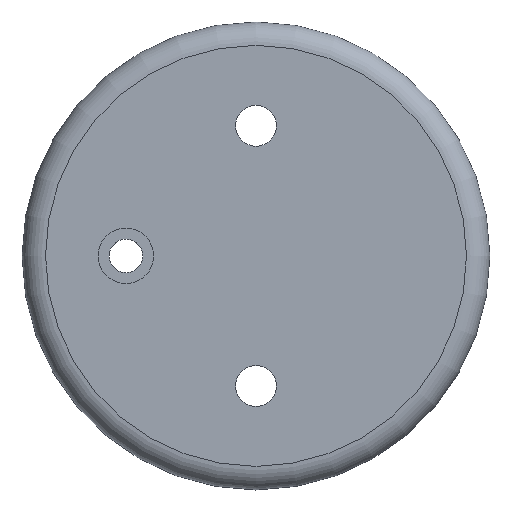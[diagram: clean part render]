
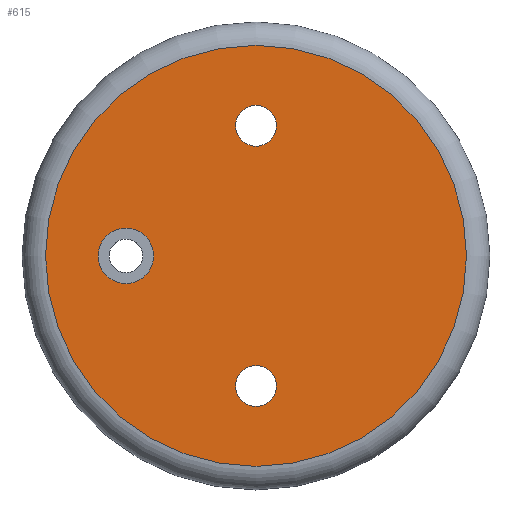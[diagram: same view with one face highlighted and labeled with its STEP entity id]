
A CAD part, top view. The second image highlights one B-rep face of the part: STEP entity #615.
In plain terms, the highlighted planar face has unit normal (0, 0, 1).
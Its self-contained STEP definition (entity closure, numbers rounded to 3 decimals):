
#257 = CYLINDRICAL_SURFACE('',#258,7.);
#258 = AXIS2_PLACEMENT_3D('',#259,#260,#261);
#259 = CARTESIAN_POINT('',(0.,-44.5,1.));
#260 = DIRECTION('',(0.,0.,-1.));
#261 = DIRECTION('',(-1.,0.,-0.));
#292 = CYLINDRICAL_SURFACE('',#293,7.);
#293 = AXIS2_PLACEMENT_3D('',#294,#295,#296);
#294 = CARTESIAN_POINT('',(0.,44.5,1.));
#295 = DIRECTION('',(0.,0.,-1.));
#296 = DIRECTION('',(-1.,0.,-0.));
#418 = VERTEX_POINT('',#419);
#419 = CARTESIAN_POINT('',(-7.,-44.5,0.));
#440 = EDGE_CURVE('',#418,#418,#441,.T.);
#441 = SURFACE_CURVE('',#442,(#447,#454),.PCURVE_S1.);
#442 = CIRCLE('',#443,7.);
#443 = AXIS2_PLACEMENT_3D('',#444,#445,#446);
#444 = CARTESIAN_POINT('',(0.,-44.5,0.));
#445 = DIRECTION('',(0.,0.,-1.));
#446 = DIRECTION('',(-1.,0.,-0.));
#447 = PCURVE('',#257,#448);
#448 = DEFINITIONAL_REPRESENTATION('',(#449),#453);
#449 = LINE('',#450,#451);
#450 = CARTESIAN_POINT('',(0.,1.));
#451 = VECTOR('',#452,1.);
#452 = DIRECTION('',(1.,0.));
#453 = ( GEOMETRIC_REPRESENTATION_CONTEXT(2) 
PARAMETRIC_REPRESENTATION_CONTEXT() REPRESENTATION_CONTEXT('2D SPACE',''
  ) );
#454 = PCURVE('',#455,#460);
#455 = PLANE('',#456);
#456 = AXIS2_PLACEMENT_3D('',#457,#458,#459);
#457 = CARTESIAN_POINT('',(0.,0.,0.));
#458 = DIRECTION('',(0.,0.,1.));
#459 = DIRECTION('',(1.,0.,-0.));
#460 = DEFINITIONAL_REPRESENTATION('',(#461),#469);
#461 = ( BOUNDED_CURVE() B_SPLINE_CURVE(2,(#462,#463,#464,#465,#466,#467
,#468),.UNSPECIFIED.,.T.,.F.) B_SPLINE_CURVE_WITH_KNOTS((1,2,2,2,2,1),(
    -2.094,0.,2.094,4.189,6.283,
8.378),.UNSPECIFIED.) CURVE() GEOMETRIC_REPRESENTATION_ITEM() 
RATIONAL_B_SPLINE_CURVE((1.,0.5,1.,0.5,1.,0.5,1.)) REPRESENTATION_ITEM(
  '') );
#462 = CARTESIAN_POINT('',(-7.,-44.5));
#463 = CARTESIAN_POINT('',(-7.,-32.376));
#464 = CARTESIAN_POINT('',(3.5,-38.438));
#465 = CARTESIAN_POINT('',(14.,-44.5));
#466 = CARTESIAN_POINT('',(3.5,-50.562));
#467 = CARTESIAN_POINT('',(-7.,-56.624));
#468 = CARTESIAN_POINT('',(-7.,-44.5));
#469 = ( GEOMETRIC_REPRESENTATION_CONTEXT(2) 
PARAMETRIC_REPRESENTATION_CONTEXT() REPRESENTATION_CONTEXT('2D SPACE',''
  ) );
#477 = VERTEX_POINT('',#478);
#478 = CARTESIAN_POINT('',(-7.,44.5,0.));
#499 = EDGE_CURVE('',#477,#477,#500,.T.);
#500 = SURFACE_CURVE('',#501,(#506,#513),.PCURVE_S1.);
#501 = CIRCLE('',#502,7.);
#502 = AXIS2_PLACEMENT_3D('',#503,#504,#505);
#503 = CARTESIAN_POINT('',(0.,44.5,0.));
#504 = DIRECTION('',(0.,0.,-1.));
#505 = DIRECTION('',(-1.,0.,-0.));
#506 = PCURVE('',#292,#507);
#507 = DEFINITIONAL_REPRESENTATION('',(#508),#512);
#508 = LINE('',#509,#510);
#509 = CARTESIAN_POINT('',(0.,1.));
#510 = VECTOR('',#511,1.);
#511 = DIRECTION('',(1.,0.));
#512 = ( GEOMETRIC_REPRESENTATION_CONTEXT(2) 
PARAMETRIC_REPRESENTATION_CONTEXT() REPRESENTATION_CONTEXT('2D SPACE',''
  ) );
#513 = PCURVE('',#455,#514);
#514 = DEFINITIONAL_REPRESENTATION('',(#515),#523);
#515 = ( BOUNDED_CURVE() B_SPLINE_CURVE(2,(#516,#517,#518,#519,#520,#521
,#522),.UNSPECIFIED.,.T.,.F.) B_SPLINE_CURVE_WITH_KNOTS((1,2,2,2,2,1),(
    -2.094,0.,2.094,4.189,6.283,
8.378),.UNSPECIFIED.) CURVE() GEOMETRIC_REPRESENTATION_ITEM() 
RATIONAL_B_SPLINE_CURVE((1.,0.5,1.,0.5,1.,0.5,1.)) REPRESENTATION_ITEM(
  '') );
#516 = CARTESIAN_POINT('',(-7.,44.5));
#517 = CARTESIAN_POINT('',(-7.,56.624));
#518 = CARTESIAN_POINT('',(3.5,50.562));
#519 = CARTESIAN_POINT('',(14.,44.5));
#520 = CARTESIAN_POINT('',(3.5,38.438));
#521 = CARTESIAN_POINT('',(-7.,32.376));
#522 = CARTESIAN_POINT('',(-7.,44.5));
#523 = ( GEOMETRIC_REPRESENTATION_CONTEXT(2) 
PARAMETRIC_REPRESENTATION_CONTEXT() REPRESENTATION_CONTEXT('2D SPACE',''
  ) );
#546 = CYLINDRICAL_SURFACE('',#547,9.5);
#547 = AXIS2_PLACEMENT_3D('',#548,#549,#550);
#548 = CARTESIAN_POINT('',(-44.5,0.,1.));
#549 = DIRECTION('',(0.,0.,-1.));
#550 = DIRECTION('',(-1.,0.,-0.));
#615 = ADVANCED_FACE('',(#616,#647,#650,#680),#455,.T.);
#616 = FACE_BOUND('',#617,.F.);
#617 = EDGE_LOOP('',(#618));
#618 = ORIENTED_EDGE('',*,*,#619,.F.);
#619 = EDGE_CURVE('',#620,#620,#622,.T.);
#620 = VERTEX_POINT('',#621);
#621 = CARTESIAN_POINT('',(72.,0.,0.));
#622 = SURFACE_CURVE('',#623,(#628,#635),.PCURVE_S1.);
#623 = CIRCLE('',#624,72.);
#624 = AXIS2_PLACEMENT_3D('',#625,#626,#627);
#625 = CARTESIAN_POINT('',(0.,0.,0.));
#626 = DIRECTION('',(0.,-0.,1.));
#627 = DIRECTION('',(1.,0.,0.));
#628 = PCURVE('',#455,#629);
#629 = DEFINITIONAL_REPRESENTATION('',(#630),#634);
#630 = CIRCLE('',#631,72.);
#631 = AXIS2_PLACEMENT_2D('',#632,#633);
#632 = CARTESIAN_POINT('',(0.,0.));
#633 = DIRECTION('',(1.,-0.));
#634 = ( GEOMETRIC_REPRESENTATION_CONTEXT(2) 
PARAMETRIC_REPRESENTATION_CONTEXT() REPRESENTATION_CONTEXT('2D SPACE',''
  ) );
#635 = PCURVE('',#636,#641);
#636 = TOROIDAL_SURFACE('',#637,72.,8.);
#637 = AXIS2_PLACEMENT_3D('',#638,#639,#640);
#638 = CARTESIAN_POINT('',(0.,0.,-8.));
#639 = DIRECTION('',(-0.,0.,-1.));
#640 = DIRECTION('',(1.,0.,0.));
#641 = DEFINITIONAL_REPRESENTATION('',(#642),#646);
#642 = LINE('',#643,#644);
#643 = CARTESIAN_POINT('',(-0.,4.712));
#644 = VECTOR('',#645,1.);
#645 = DIRECTION('',(-1.,0.));
#646 = ( GEOMETRIC_REPRESENTATION_CONTEXT(2) 
PARAMETRIC_REPRESENTATION_CONTEXT() REPRESENTATION_CONTEXT('2D SPACE',''
  ) );
#647 = FACE_BOUND('',#648,.F.);
#648 = EDGE_LOOP('',(#649));
#649 = ORIENTED_EDGE('',*,*,#440,.F.);
#650 = FACE_BOUND('',#651,.F.);
#651 = EDGE_LOOP('',(#652));
#652 = ORIENTED_EDGE('',*,*,#653,.F.);
#653 = EDGE_CURVE('',#654,#654,#656,.T.);
#654 = VERTEX_POINT('',#655);
#655 = CARTESIAN_POINT('',(-54.,0.,0.));
#656 = SURFACE_CURVE('',#657,(#662,#673),.PCURVE_S1.);
#657 = CIRCLE('',#658,9.5);
#658 = AXIS2_PLACEMENT_3D('',#659,#660,#661);
#659 = CARTESIAN_POINT('',(-44.5,0.,0.));
#660 = DIRECTION('',(0.,0.,-1.));
#661 = DIRECTION('',(-1.,0.,-0.));
#662 = PCURVE('',#455,#663);
#663 = DEFINITIONAL_REPRESENTATION('',(#664),#672);
#664 = ( BOUNDED_CURVE() B_SPLINE_CURVE(2,(#665,#666,#667,#668,#669,#670
,#671),.UNSPECIFIED.,.T.,.F.) B_SPLINE_CURVE_WITH_KNOTS((1,2,2,2,2,1),(
    -2.094,0.,2.094,4.189,6.283,
8.378),.UNSPECIFIED.) CURVE() GEOMETRIC_REPRESENTATION_ITEM() 
RATIONAL_B_SPLINE_CURVE((1.,0.5,1.,0.5,1.,0.5,1.)) REPRESENTATION_ITEM(
  '') );
#665 = CARTESIAN_POINT('',(-54.,0.));
#666 = CARTESIAN_POINT('',(-54.,16.454));
#667 = CARTESIAN_POINT('',(-39.75,8.227));
#668 = CARTESIAN_POINT('',(-25.5,0.));
#669 = CARTESIAN_POINT('',(-39.75,-8.227));
#670 = CARTESIAN_POINT('',(-54.,-16.454));
#671 = CARTESIAN_POINT('',(-54.,0.));
#672 = ( GEOMETRIC_REPRESENTATION_CONTEXT(2) 
PARAMETRIC_REPRESENTATION_CONTEXT() REPRESENTATION_CONTEXT('2D SPACE',''
  ) );
#673 = PCURVE('',#546,#674);
#674 = DEFINITIONAL_REPRESENTATION('',(#675),#679);
#675 = LINE('',#676,#677);
#676 = CARTESIAN_POINT('',(0.,1.));
#677 = VECTOR('',#678,1.);
#678 = DIRECTION('',(1.,0.));
#679 = ( GEOMETRIC_REPRESENTATION_CONTEXT(2) 
PARAMETRIC_REPRESENTATION_CONTEXT() REPRESENTATION_CONTEXT('2D SPACE',''
  ) );
#680 = FACE_BOUND('',#681,.F.);
#681 = EDGE_LOOP('',(#682));
#682 = ORIENTED_EDGE('',*,*,#499,.F.);
